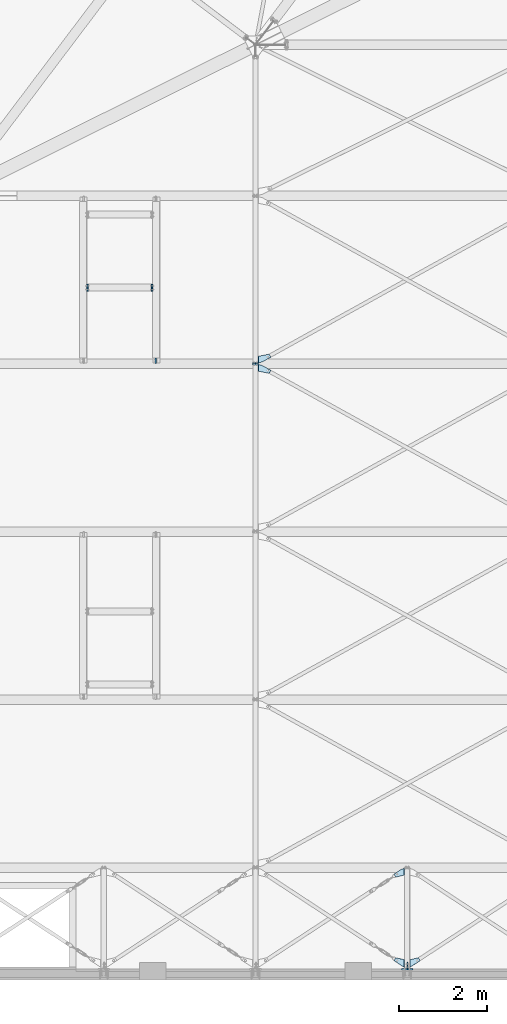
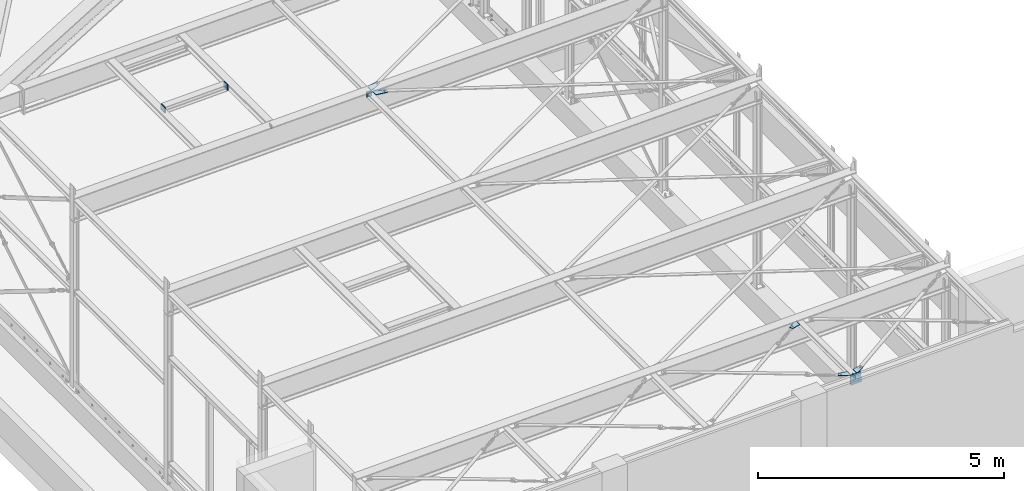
# One storey, part 40 of 476: 14 plates, 60 openings.
"""IFC2X3 building model written with IfcOpenShell, lengths in millimetres."""

from ifc_helpers import new_model, entity, si_unit, converted_unit, point, frame, frame_2d, origin, origin_with_axes, origin_2d_with_axis, place, context, project, spatial, polyline, circle_curve, line_curve, trimmed, segment, composite_curve, circle, outline, extrude, material, layer, layer_set, element, save


model = new_model("IFC2X3")

# Units and contexts
model_context = context("Model", 3, precision=1e-09, world=origin_with_axes())
ifc_project = project(units=[si_unit("LENGTHUNIT", "METRE", prefix="MILLI"), si_unit("AREAUNIT", "SQUARE_METRE"), si_unit("VOLUMEUNIT", "CUBIC_METRE"), converted_unit("PLANEANGLEUNIT", "DEGREE", entity("IfcPlaneAngleMeasure", 0.01745329), si_unit("PLANEANGLEUNIT", "RADIAN"), dimensions=[0, 0, 0, 0, 0, 0, 0])], contexts=[model_context])

# Site, building, storey
site_placement = place(None, origin_with_axes())
site = spatial("IfcSite", under=ifc_project, at=site_placement, Name="mKR Teilneubau & Sanierung BA1 - Ostfildern", CompositionType="ELEMENT")
building_placement = place(site_placement, origin_with_axes())
building = spatial("IfcBuilding", under=site, at=building_placement, Name="Struktur 1", CompositionType="ELEMENT")
storey_placement = place(building_placement, origin_with_axes())
storey = spatial("IfcBuildingStorey", under=building, at=storey_placement, Name="Default Storey", CompositionType="ELEMENT", Elevation=0.0)

# Plate, openings
ifc_material = material(Name="S235JR")
ifc_layer_1 = layer(ifc_material, 15.0)
ifc_layer_set_1 = layer_set([ifc_layer_1], Name="S235JR")
plate_1_placement = place(None, frame((15123.866061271, -9783.67487897, 5423.533418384), z_axis=(0.030019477, 0.0, -0.999549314), x_axis=(0.999549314, 0.0, 0.030019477)))
plate_1 = element("IfcPlate", 1, at=plate_1_placement, inside=storey, material=ifc_layer_set_1, Name="-", ObjectType="-", context=model_context, shape_type="SweptSolid", body=[
    extrude(outline(polyline([(0.0, 0.0), (55.140356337, 0.0), (291.381008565, 130.729269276), (252.646618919, 200.726934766), (1e-09, 150.0), (0.0, 0.0)])), origin_with_axes(), (0.0, 0.0, 1.0), 15.0),
])
opening_1_placement = place(plate_1_placement, frame((0.0, 0.0, -0.01), z_axis=(0.0, 0.0, 1.0), x_axis=(1.0, 0.0, 0.0)))
element("IfcOpeningElement", 2, at=opening_1_placement, cuts=plate_1, ObjectType="Opening", context=model_context, shape_type="SweptSolid", body=[
    extrude(outline(composite_curve([segment(trimmed(line_curve((55.140356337, 0.0), (0.874966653, 0.484183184), 45.191234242), [point((55.140356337, 0.0))], [point((94.681179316, 21.880835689))], True, "CARTESIAN"), True, "CONTINUOUS"), segment(trimmed(circle_curve(frame_2d((9.949122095, 175.0), x_axis=(-1.0, 0.0)), 175.0), [point((94.681179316, 21.880835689))], [point((9.949122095, 0.0))], False, "CARTESIAN"), True, "CONTINUOUS"), segment(trimmed(line_curve((9.949122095, 0.0), (1.0, 0.0), 45.191234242), [point((9.949122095, 0.0))], [point((55.140356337, 0.0))], True, "CARTESIAN"), True, "CONTINUOUS")], self_intersect=False)), origin(), (0.0, 0.0, 1.0), 15.02),
])
opening_2_placement = place(plate_1_placement, frame((1e-09, 151.607257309, 0.0), z_axis=(0.0, -1.0, 0.0), x_axis=(1.0, 0.0, 0.0)))
element("IfcOpeningElement", 3, at=opening_2_placement, cuts=plate_1, ObjectType="Opening", context=model_context, shape_type="SweptSolid", body=[
    extrude(outline(polyline([(0.0, 0.0), (8.0, 0.0), (0.0, 8.0), (0.0, 0.0)])), origin(), (0.0, 0.0, 1.0), 151.628257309),
])
opening_3_placement = place(plate_1_placement, frame((219.51589081, 136.676196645, 15.499690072), z_axis=(-2.2474e-05, 0.0, -1.0), x_axis=(-0.874966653, -0.484183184, 1.9664e-05)))
element("IfcOpeningElement", 4, at=opening_3_placement, cuts=plate_1, ObjectType="Opening", context=model_context, shape_type="SweptSolid", body=[
    extrude(circle(Radius=14.501, at=origin_2d_with_axis()), origin(), (0.0, 0.0, 1.0), 16.000000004),
])

plate_2_placement = place(None, frame((15123.866061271, -9747.67287897, 5423.533418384), z_axis=(-0.030019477, 0.0, 0.999549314), x_axis=(0.999549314, 0.0, 0.030019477)))
plate_2 = element("IfcPlate", 5, at=plate_2_placement, inside=storey, material=ifc_layer_set_1, Name="-", ObjectType="-", context=model_context, shape_type="SweptSolid", body=[
    extrude(outline(polyline([(0.0, 0.0), (55.140356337, 0.0), (291.381008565, 130.729269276), (252.646618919, 200.726934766), (1e-09, 150.0), (0.0, 0.0)])), origin_with_axes(), (0.0, 0.0, -1.0), 15.0),
])
opening_4_placement = place(plate_2_placement, frame((55.140356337, 0.0, 0.01), z_axis=(0.0, 0.0, 1.0), x_axis=(0.874966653, 0.484183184, 0.0)))
element("IfcOpeningElement", 6, at=opening_4_placement, cuts=plate_2, ObjectType="Opening", context=model_context, shape_type="SweptSolid", body=[
    extrude(outline(composite_curve([segment(trimmed(line_curve((0.0, 0.0), (1.0, 0.0), 45.191234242), [point((0.0, 0.0))], [point((45.191234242, 0.0))], True, "CARTESIAN"), True, "CONTINUOUS"), segment(trimmed(circle_curve(frame_2d((45.191234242, 175.0), x_axis=(-1.0, 0.0)), 175.0), [point((45.191234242, 0.0))], [point((-39.540822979, 21.880835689))], False, "CARTESIAN"), True, "CONTINUOUS"), segment(trimmed(line_curve((-39.540822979, 21.880835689), (0.874966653, -0.484183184), 45.191234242), [point((-39.540822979, 21.880835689))], [point((0.0, 0.0))], True, "CARTESIAN"), True, "CONTINUOUS")], self_intersect=False)), origin(), (0.0, 0.0, -1.0), 15.02),
])
opening_5_placement = place(plate_2_placement, frame((0.0, -0.001, 0.0), z_axis=(0.0, 1.0, 0.0), x_axis=(1.0, 0.0, 0.0)))
element("IfcOpeningElement", 7, at=opening_5_placement, cuts=plate_2, ObjectType="Opening", context=model_context, shape_type="SweptSolid", body=[
    extrude(outline(polyline([(0.0, 0.0), (8.0, 0.0), (0.0, 8.0), (0.0, 0.0)])), origin(), (0.0, 0.0, 1.0), 151.628257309),
])
opening_6_placement = place(plate_2_placement, frame((232.203782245, 143.697336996, -15.499404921), z_axis=(2.2474e-05, 0.0, -1.0), x_axis=(-1.0, 0.0, -2.2474e-05)))
element("IfcOpeningElement", 8, at=opening_6_placement, cuts=plate_2, ObjectType="Opening", context=model_context, shape_type="SweptSolid", body=[
    extrude(circle(Radius=14.501, at=frame_2d((12.687891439, -7.021140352), x_axis=(1.0, 0.0))), origin(), (0.0, 0.0, -1.0), 16.000000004),
])

plate_3_placement = place(None, frame((18453.923230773, -23320.388789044, 5523.496218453), z_axis=(-0.030004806, 0.0, 0.999549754), x_axis=(-0.971475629, 0.23533949, -0.029162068)))
plate_3 = element("IfcPlate", 9, at=plate_3_placement, inside=storey, material=ifc_layer_set_1, Name="-", ObjectType="-", context=model_context, shape_type="SweptSolid", body=[
    extrude(outline(polyline([(0.0, 0.0), (200.924912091, 0.0), (227.827566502, 75.338578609), (-41.531266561, 171.523929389), (0.0, 0.0)])), origin_with_axes(), (0.0, 0.0, -1.0), 15.0),
])
opening_7_placement = place(plate_3_placement, frame((0.456082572, -1.883618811, 0.0), z_axis=(-0.235330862, 0.971915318, 0.0), x_axis=(0.971915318, 0.235330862, 0.0)))
element("IfcOpeningElement", 10, at=opening_7_placement, cuts=plate_3, ObjectType="Opening", context=model_context, shape_type="SweptSolid", body=[
    extrude(outline(polyline([(0.0, 0.0), (8.0, 0.0), (0.0, 8.0), (0.0, 0.0)])), origin(), (0.0, 0.0, 1.0), 178.43837142),
])
opening_8_placement = place(plate_3_placement, frame((157.870504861, 57.84744696, -15.499797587), z_axis=(-1.4266e-05, -3.454e-06, 1.0), x_axis=(-0.23533949, 0.971913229, 0.0)))
element("IfcOpeningElement", 11, at=opening_8_placement, cuts=plate_3, ObjectType="Opening", context=model_context, shape_type="SweptSolid", body=[
    extrude(circle(Radius=14.501, at=origin_2d_with_axis()), origin(), (0.0, 0.0, 1.0), 16.000000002),
])

plate_4_placement = place(None, frame((18453.923450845, -21243.67487897, 5523.496225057), z_axis=(-0.029990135, 0.0, 0.999550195), x_axis=(-0.999550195, 0.0, -0.029990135)))
plate_4 = element("IfcPlate", 12, at=plate_4_placement, inside=storey, material=ifc_layer_set_1, Name="-", ObjectType="-", context=model_context, shape_type="SweptSolid", body=[
    extrude(outline(polyline([(0.0, 0.0), (40.371139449, 0.0), (239.157976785, 130.393742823), (195.281580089, 197.285566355), (1e-09, 150.0), (0.0, 0.0)])), origin_with_axes(), (0.0, 0.0, -1.0), 15.0),
])
opening_9_placement = place(plate_4_placement, frame((0.0, -0.001, 0.0), z_axis=(0.0, 1.0, 0.0), x_axis=(1.0, 0.0, 0.0)))
element("IfcOpeningElement", 13, at=opening_9_placement, cuts=plate_4, ObjectType="Opening", context=model_context, shape_type="SweptSolid", body=[
    extrude(outline(polyline([(0.0, 0.0), (8.0, 0.0), (0.0, 8.0), (0.0, 0.0)])), origin(), (0.0, 0.0, 1.0), 151.959123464),
])
opening_10_placement = place(plate_4_placement, frame((40.371139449, 0.0, 0.01), z_axis=(0.0, 0.0, 1.0), x_axis=(0.83616389, 0.548479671, 0.0)))
element("IfcOpeningElement", 14, at=opening_10_placement, cuts=plate_4, ObjectType="Opening", context=model_context, shape_type="SweptSolid", body=[
    extrude(outline(composite_curve([segment(trimmed(line_curve((0.0, 0.0), (1.0, 0.0), 29.87095402), [point((0.0, 0.0))], [point((29.87095402, 0.0))], True, "CARTESIAN"), True, "CONTINUOUS"), segment(trimmed(circle_curve(frame_2d((29.87095402, 100.0), x_axis=(-1.0, 0.0)), 100.0), [point((29.87095402, 0.0))], [point((-24.9770131, 16.383611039))], False, "CARTESIAN"), True, "CONTINUOUS"), segment(trimmed(line_curve((-24.9770131, 16.383611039), (0.83616389, -0.548479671), 29.87095402), [point((-24.9770131, 16.383611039))], [point((0.0, 0.0))], True, "CARTESIAN"), True, "CONTINUOUS")], self_intersect=False)), origin(), (0.0, 0.0, -1.0), 15.02),
])
opening_11_placement = place(plate_4_placement, frame((167.050213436, 145.431465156, -15.5), z_axis=(0.0, 0.0, -1.0), x_axis=(-1.0, 0.0, 0.0)))
element("IfcOpeningElement", 15, at=opening_11_placement, cuts=plate_4, ObjectType="Opening", context=model_context, shape_type="SweptSolid", body=[
    extrude(circle(Radius=14.501, at=frame_2d((0.0, -14.501), x_axis=(1.0, 0.0))), origin(), (0.0, 0.0, -1.0), 16.0),
])

plate_5_placement = place(None, frame((18573.865060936, -23320.388789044, 5527.224888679), z_axis=(0.030004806, 0.0, -0.999549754), x_axis=(0.971475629, 0.23533949, 0.029162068)))
plate_5 = element("IfcPlate", 16, at=plate_5_placement, inside=storey, material=ifc_layer_set_1, Name="-", ObjectType="-", context=model_context, shape_type="SweptSolid", body=[
    extrude(outline(polyline([(0.0, 0.0), (200.924912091, 0.0), (227.827566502, 75.338578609), (-41.531266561, 171.523929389), (0.0, 0.0)])), origin_with_axes(), (0.0, 0.0, 1.0), 15.0),
])
opening_12_placement = place(plate_5_placement, frame((-41.531266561, 171.523929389, 0.0), z_axis=(0.235330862, -0.971915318, 0.0), x_axis=(0.971915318, 0.235330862, 0.0)))
element("IfcOpeningElement", 17, at=opening_12_placement, cuts=plate_5, ObjectType="Opening", context=model_context, shape_type="SweptSolid", body=[
    extrude(outline(polyline([(0.0, 0.0), (8.0, 0.0), (0.0, 8.0), (0.0, 0.0)])), origin(), (0.0, 0.0, 1.0), 178.43837142),
])
opening_13_placement = place(plate_5_placement, frame((161.283162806, 43.753733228, 15.499797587), z_axis=(1.4266e-05, 3.454e-06, 1.0), x_axis=(1.0, 0.0, -1.4266e-05)))
element("IfcOpeningElement", 18, at=opening_13_placement, cuts=plate_5, ObjectType="Opening", context=model_context, shape_type="SweptSolid", body=[
    extrude(circle(Radius=14.501, at=frame_2d((-3.412657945, 14.093713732), x_axis=(1.0, 0.0))), origin(), (0.0, 0.0, -1.0), 16.000000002),
])

plate_6_placement = place(None, frame((18533.098058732, -23454.67387897, 5468.818363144), z_axis=(-0.999548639, 0.0, -0.030041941), x_axis=(0.0, -1.0, 0.0)))
plate_6 = element("IfcPlate", 19, at=plate_6_placement, inside=storey, material=ifc_layer_set_1, Name="-", ObjectType="-", context=model_context, shape_type="SweptSolid", body=[
    extrude(outline(polyline([(-75.0, -37.5), (75.0, -37.5), (75.0, 37.5), (-75.0, 37.5), (-75.0, -37.5)])), origin_with_axes(), (0.0, 0.0, 1.0), 15.0),
])
opening_14_placement = place(plate_6_placement, frame((1.0353e-05, 2.166e-06, -0.5), z_axis=(0.0, 0.0, 1.0), x_axis=(1.0, 0.0, 0.0)))
element("IfcOpeningElement", 20, at=opening_14_placement, cuts=plate_6, ObjectType="Opening", context=model_context, shape_type="SweptSolid", body=[
    extrude(circle(Radius=9.001, at=frame_2d((35.0, 0.0), x_axis=(1.0, 0.0))), origin(), (0.0, 0.0, 1.0), 16.0),
])
opening_15_placement = place(plate_6_placement, frame((1.0353e-05, 2.166e-06, -0.5), z_axis=(0.0, 0.0, 1.0), x_axis=(1.0, 0.0, 0.0)))
element("IfcOpeningElement", 21, at=opening_15_placement, cuts=plate_6, ObjectType="Opening", context=model_context, shape_type="SweptSolid", body=[
    extrude(circle(Radius=9.001, at=frame_2d((-35.0, 0.0), x_axis=(1.0, 0.0))), origin(), (0.0, 0.0, 1.0), 16.0),
])

plate_7_placement = place(None, frame((12699.238358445, -8035.673034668, 5334.436682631), z_axis=(0.999549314, 0.0, 0.030019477), x_axis=(0.030019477, 0.0, -0.999549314)))
plate_7 = element("IfcPlate", 22, at=plate_7_placement, inside=storey, material=ifc_layer_set_1, Name="Endplate#1", ObjectType="Endplate#1", context=model_context, shape_type="SweptSolid", body=[
    extrude(outline(polyline([(-70.0, -80.0), (70.0, -80.0), (70.0, 80.0), (-70.0, 80.0), (-70.0, -80.0)])), origin_with_axes(), (0.0, 0.0, 1.0), 15.0),
])
opening_16_placement = place(plate_7_placement, frame((52.0, -18.0, 15.5), z_axis=(0.0, 0.0, -1.0), x_axis=(1.0, 0.0, 0.0)))
element("IfcOpeningElement", 23, at=opening_16_placement, cuts=plate_7, ObjectType="Opening", context=model_context, shape_type="SweptSolid", body=[
    extrude(circle(Radius=6.001, at=origin_2d_with_axis()), origin(), (0.0, 0.0, 1.0), 16.0),
])
opening_17_placement = place(plate_7_placement, frame((-52.0, -18.0, 15.5), z_axis=(0.0, 0.0, -1.0), x_axis=(1.0, 0.0, 0.0)))
element("IfcOpeningElement", 24, at=opening_17_placement, cuts=plate_7, ObjectType="Opening", context=model_context, shape_type="SweptSolid", body=[
    extrude(circle(Radius=6.001, at=origin_2d_with_axis()), origin(), (0.0, 0.0, 1.0), 16.0),
])
opening_18_placement = place(plate_7_placement, frame((-52.0, 18.0, 15.5), z_axis=(0.0, 0.0, -1.0), x_axis=(1.0, 0.0, 0.0)))
element("IfcOpeningElement", 25, at=opening_18_placement, cuts=plate_7, ObjectType="Opening", context=model_context, shape_type="SweptSolid", body=[
    extrude(circle(Radius=6.001, at=origin_2d_with_axis()), origin(), (0.0, 0.0, 1.0), 16.0),
])
opening_19_placement = place(plate_7_placement, frame((52.0, 18.0, 15.5), z_axis=(0.0, 0.0, -1.0), x_axis=(1.0, 0.0, 0.0)))
element("IfcOpeningElement", 26, at=opening_19_placement, cuts=plate_7, ObjectType="Opening", context=model_context, shape_type="SweptSolid", body=[
    extrude(circle(Radius=6.001, at=origin_2d_with_axis()), origin(), (0.0, 0.0, 1.0), 16.0),
])
opening_20_placement = place(plate_7_placement, frame((35.0, 43.0, 15.5), z_axis=(0.0, 0.0, -1.0), x_axis=(-1.0, 0.0, 0.0)))
element("IfcOpeningElement", 27, at=opening_20_placement, cuts=plate_7, ObjectType="Opening", context=model_context, shape_type="SweptSolid", body=[
    extrude(circle(Radius=7.001, at=frame_2d((70.0, 0.0), x_axis=(1.0, 0.0))), origin(), (0.0, 0.0, 1.0), 16.0),
])
opening_21_placement = place(plate_7_placement, frame((35.0, 43.0, 15.5), z_axis=(0.0, 0.0, -1.0), x_axis=(-1.0, 0.0, 0.0)))
element("IfcOpeningElement", 28, at=opening_21_placement, cuts=plate_7, ObjectType="Opening", context=model_context, shape_type="SweptSolid", body=[
    extrude(circle(Radius=7.001, at=origin_2d_with_axis()), origin(), (0.0, 0.0, 1.0), 16.0),
])
opening_22_placement = place(plate_7_placement, frame((35.0, -43.0, 15.5), z_axis=(0.0, 0.0, -1.0), x_axis=(0.0, -1.0, 0.0)))
element("IfcOpeningElement", 29, at=opening_22_placement, cuts=plate_7, ObjectType="Opening", context=model_context, shape_type="SweptSolid", body=[
    extrude(circle(Radius=7.001, at=frame_2d((0.0, 70.0), x_axis=(1.0, 0.0))), origin(), (0.0, 0.0, 1.0), 16.0),
])
opening_23_placement = place(plate_7_placement, frame((35.0, -43.0, 15.5), z_axis=(0.0, 0.0, -1.0), x_axis=(0.0, -1.0, 0.0)))
element("IfcOpeningElement", 30, at=opening_23_placement, cuts=plate_7, ObjectType="Opening", context=model_context, shape_type="SweptSolid", body=[
    extrude(circle(Radius=7.001, at=origin_2d_with_axis()), origin(), (0.0, 0.0, 1.0), 16.0),
])

plate_8_placement = place(None, frame((12729.224837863, -8035.673034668, 5335.33726695), z_axis=(-0.999549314, 0.0, -0.030019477), x_axis=(0.0, -1.0, 0.0)))
plate_8 = element("IfcPlate", 31, at=plate_8_placement, inside=storey, material=ifc_layer_set_1, Name="T-plate", ObjectType="T-plate", context=model_context, shape_type="SweptSolid", body=[
    extrude(outline(polyline([(-80.0, -70.0), (80.0, -70.0), (80.0, 70.0), (-80.0, 70.0), (-80.0, -70.0)])), origin_with_axes(), (0.0, 0.0, 1.0), 15.0),
])
opening_24_placement = place(plate_8_placement, frame((-43.0, -35.0, -0.5), z_axis=(0.0, 0.0, 1.0), x_axis=(0.0, 1.0, 0.0)))
element("IfcOpeningElement", 32, at=opening_24_placement, cuts=plate_8, ObjectType="Opening", context=model_context, shape_type="SweptSolid", body=[
    extrude(circle(Radius=7.001, at=frame_2d((70.0, 0.0), x_axis=(1.0, 0.0))), origin(), (0.0, 0.0, 1.0), 16.0),
])
opening_25_placement = place(plate_8_placement, frame((-43.0, -35.0, -0.5), z_axis=(0.0, 0.0, 1.0), x_axis=(0.0, 1.0, 0.0)))
element("IfcOpeningElement", 33, at=opening_25_placement, cuts=plate_8, ObjectType="Opening", context=model_context, shape_type="SweptSolid", body=[
    extrude(circle(Radius=7.001, at=origin_2d_with_axis()), origin(), (0.0, 0.0, 1.0), 16.0),
])
opening_26_placement = place(plate_8_placement, frame((43.0, -35.0, -0.5), z_axis=(0.0, 0.0, 1.0), x_axis=(1.0, 0.0, 0.0)))
element("IfcOpeningElement", 34, at=opening_26_placement, cuts=plate_8, ObjectType="Opening", context=model_context, shape_type="SweptSolid", body=[
    extrude(circle(Radius=7.001, at=frame_2d((0.0, 70.0), x_axis=(1.0, 0.0))), origin(), (0.0, 0.0, 1.0), 16.0),
])
opening_27_placement = place(plate_8_placement, frame((43.0, -35.0, -0.5), z_axis=(0.0, 0.0, 1.0), x_axis=(1.0, 0.0, 0.0)))
element("IfcOpeningElement", 35, at=opening_27_placement, cuts=plate_8, ObjectType="Opening", context=model_context, shape_type="SweptSolid", body=[
    extrude(circle(Radius=7.001, at=origin_2d_with_axis()), origin(), (0.0, 0.0, 1.0), 16.0),
])

plate_9_placement = place(None, frame((11259.887346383, -8035.673034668, 5291.208635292), z_axis=(-0.999549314, 0.0, -0.030019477), x_axis=(0.030019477, 0.0, -0.999549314)))
plate_9 = element("IfcPlate", 36, at=plate_9_placement, inside=storey, material=ifc_layer_set_1, Name="Endplate#1", ObjectType="Endplate#1", context=model_context, shape_type="SweptSolid", body=[
    extrude(outline(polyline([(-70.0, -80.0), (70.0, -80.0), (70.0, 80.0), (-70.0, 80.0), (-70.0, -80.0)])), origin_with_axes(), (0.0, 0.0, 1.0), 15.0),
])
opening_28_placement = place(plate_9_placement, frame((52.0, 18.0, 15.5), z_axis=(0.0, 0.0, -1.0), x_axis=(-1.0, 0.0, 0.0)))
element("IfcOpeningElement", 37, at=opening_28_placement, cuts=plate_9, ObjectType="Opening", context=model_context, shape_type="SweptSolid", body=[
    extrude(circle(Radius=6.001, at=origin_2d_with_axis()), origin(), (0.0, 0.0, 1.0), 16.0),
])
opening_29_placement = place(plate_9_placement, frame((-52.0, 18.0, 15.5), z_axis=(0.0, 0.0, -1.0), x_axis=(-1.0, 0.0, 0.0)))
element("IfcOpeningElement", 38, at=opening_29_placement, cuts=plate_9, ObjectType="Opening", context=model_context, shape_type="SweptSolid", body=[
    extrude(circle(Radius=6.001, at=origin_2d_with_axis()), origin(), (0.0, 0.0, 1.0), 16.0),
])
opening_30_placement = place(plate_9_placement, frame((-52.0, -18.0, 15.5), z_axis=(0.0, 0.0, -1.0), x_axis=(-1.0, 0.0, 0.0)))
element("IfcOpeningElement", 39, at=opening_30_placement, cuts=plate_9, ObjectType="Opening", context=model_context, shape_type="SweptSolid", body=[
    extrude(circle(Radius=6.001, at=origin_2d_with_axis()), origin(), (0.0, 0.0, 1.0), 16.0),
])
opening_31_placement = place(plate_9_placement, frame((52.0, -18.0, 15.5), z_axis=(0.0, 0.0, -1.0), x_axis=(-1.0, 0.0, 0.0)))
element("IfcOpeningElement", 40, at=opening_31_placement, cuts=plate_9, ObjectType="Opening", context=model_context, shape_type="SweptSolid", body=[
    extrude(circle(Radius=6.001, at=origin_2d_with_axis()), origin(), (0.0, 0.0, 1.0), 16.0),
])
opening_32_placement = place(plate_9_placement, frame((35.0, 43.0, 15.5), z_axis=(0.0, 0.0, -1.0), x_axis=(-1.0, 0.0, 0.0)))
element("IfcOpeningElement", 41, at=opening_32_placement, cuts=plate_9, ObjectType="Opening", context=model_context, shape_type="SweptSolid", body=[
    extrude(circle(Radius=7.001, at=frame_2d((70.0, 0.0), x_axis=(1.0, 0.0))), origin(), (0.0, 0.0, 1.0), 16.0),
])
opening_33_placement = place(plate_9_placement, frame((35.0, 43.0, 15.5), z_axis=(0.0, 0.0, -1.0), x_axis=(-1.0, 0.0, 0.0)))
element("IfcOpeningElement", 42, at=opening_33_placement, cuts=plate_9, ObjectType="Opening", context=model_context, shape_type="SweptSolid", body=[
    extrude(circle(Radius=7.001, at=origin_2d_with_axis()), origin(), (0.0, 0.0, 1.0), 16.0),
])
opening_34_placement = place(plate_9_placement, frame((35.0, -43.0, 15.5), z_axis=(0.0, 0.0, -1.0), x_axis=(0.0, -1.0, 0.0)))
element("IfcOpeningElement", 43, at=opening_34_placement, cuts=plate_9, ObjectType="Opening", context=model_context, shape_type="SweptSolid", body=[
    extrude(circle(Radius=7.001, at=frame_2d((0.0, 70.0), x_axis=(1.0, 0.0))), origin(), (0.0, 0.0, 1.0), 16.0),
])
opening_35_placement = place(plate_9_placement, frame((35.0, -43.0, 15.5), z_axis=(0.0, 0.0, -1.0), x_axis=(0.0, -1.0, 0.0)))
element("IfcOpeningElement", 44, at=opening_35_placement, cuts=plate_9, ObjectType="Opening", context=model_context, shape_type="SweptSolid", body=[
    extrude(circle(Radius=7.001, at=origin_2d_with_axis()), origin(), (0.0, 0.0, 1.0), 16.0),
])

plate_10_placement = place(None, frame((11229.900866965, -8035.673034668, 5290.308050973), z_axis=(0.999549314, 0.0, 0.030019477), x_axis=(0.0, 1.0, 0.0)))
plate_10 = element("IfcPlate", 45, at=plate_10_placement, inside=storey, material=ifc_layer_set_1, Name="T-plate", ObjectType="T-plate", context=model_context, shape_type="SweptSolid", body=[
    extrude(outline(polyline([(-80.0, -70.0), (80.0, -70.0), (80.0, 70.0), (-80.0, 70.0), (-80.0, -70.0)])), origin_with_axes(), (0.0, 0.0, 1.0), 15.0),
])
opening_36_placement = place(plate_10_placement, frame((43.0, -35.0, -0.5), z_axis=(0.0, 0.0, 1.0), x_axis=(1.0, 0.0, 0.0)))
element("IfcOpeningElement", 46, at=opening_36_placement, cuts=plate_10, ObjectType="Opening", context=model_context, shape_type="SweptSolid", body=[
    extrude(circle(Radius=7.001, at=frame_2d((0.0, 70.0), x_axis=(1.0, 0.0))), origin(), (0.0, 0.0, 1.0), 16.0),
])
opening_37_placement = place(plate_10_placement, frame((43.0, -35.0, -0.5), z_axis=(0.0, 0.0, 1.0), x_axis=(1.0, 0.0, 0.0)))
element("IfcOpeningElement", 47, at=opening_37_placement, cuts=plate_10, ObjectType="Opening", context=model_context, shape_type="SweptSolid", body=[
    extrude(circle(Radius=7.001, at=origin_2d_with_axis()), origin(), (0.0, 0.0, 1.0), 16.0),
])
opening_38_placement = place(plate_10_placement, frame((-43.0, -35.0, -0.5), z_axis=(0.0, 0.0, 1.0), x_axis=(0.0, 1.0, 0.0)))
element("IfcOpeningElement", 48, at=opening_38_placement, cuts=plate_10, ObjectType="Opening", context=model_context, shape_type="SweptSolid", body=[
    extrude(circle(Radius=7.001, at=frame_2d((70.0, 0.0), x_axis=(1.0, 0.0))), origin(), (0.0, 0.0, 1.0), 16.0),
])
opening_39_placement = place(plate_10_placement, frame((-43.0, -35.0, -0.5), z_axis=(0.0, 0.0, 1.0), x_axis=(0.0, 1.0, 0.0)))
element("IfcOpeningElement", 49, at=opening_39_placement, cuts=plate_10, ObjectType="Opening", context=model_context, shape_type="SweptSolid", body=[
    extrude(circle(Radius=7.001, at=origin_2d_with_axis()), origin(), (0.0, 0.0, 1.0), 16.0),
])

plate_11_placement = place(None, frame((12804.92814849, -9759.67387897, 5379.66874502), z_axis=(-0.999549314, 0.0, -0.030019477), x_axis=(0.0, 1.0, 0.0)))
plate_11 = element("IfcPlate", 50, at=plate_11_placement, inside=storey, material=ifc_layer_set_1, Name="LugPlate#1", ObjectType="LugPlate#1", context=model_context, shape_type="SweptSolid", body=[
    extrude(outline(polyline([(0.0, 0.0), (115.0, 0.0), (115.0, 90.0), (0.0, 90.0), (0.0, 0.0)])), origin_with_axes(), (0.0, 0.0, 1.0), 15.0),
])
opening_40_placement = place(plate_11_placement, frame((0.0, 0.0, 15.1), z_axis=(0.0, 0.0, -1.0), x_axis=(1.0, 0.0, 0.0)))
element("IfcOpeningElement", 51, at=opening_40_placement, cuts=plate_11, ObjectType="Opening", context=model_context, shape_type="SweptSolid", body=[
    extrude(outline(polyline([(24.002414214, 15.000932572), (-0.001, 15.000932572), (-0.001, -9.002481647), (24.002414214, 15.000932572)])), origin(), (0.0, 0.0, 1.0), 15.2),
])
opening_41_placement = place(plate_11_placement, frame((82.999, 65.0, 15.5), z_axis=(0.0, 0.0, 1.0), x_axis=(1.0, 0.0, 0.0)))
element("IfcOpeningElement", 52, at=opening_41_placement, cuts=plate_11, ObjectType="Opening", context=model_context, shape_type="SweptSolid", body=[
    extrude(circle(Radius=7.001, at=frame_2d((7.001, 0.0), x_axis=(1.0, 0.0))), origin(), (0.0, 0.0, -1.0), 16.0),
])
opening_42_placement = place(plate_11_placement, frame((32.999, 65.0, 15.5), z_axis=(0.0, 0.0, 1.0), x_axis=(1.0, 0.0, 0.0)))
element("IfcOpeningElement", 53, at=opening_42_placement, cuts=plate_11, ObjectType="Opening", context=model_context, shape_type="SweptSolid", body=[
    extrude(circle(Radius=7.001, at=frame_2d((7.001, 0.0), x_axis=(1.0, 0.0))), origin(), (0.0, 0.0, -1.0), 16.0),
])
opening_43_placement = place(plate_11_placement, frame((82.999, 25.0, 15.5), z_axis=(0.0, 0.0, 1.0), x_axis=(1.0, 0.0, 0.0)))
element("IfcOpeningElement", 54, at=opening_43_placement, cuts=plate_11, ObjectType="Opening", context=model_context, shape_type="SweptSolid", body=[
    extrude(circle(Radius=7.001, at=frame_2d((7.001, 0.0), x_axis=(1.0, 0.0))), origin(), (0.0, 0.0, -1.0), 16.0),
])
opening_44_placement = place(plate_11_placement, frame((32.999, 25.0, 15.5), z_axis=(0.0, 0.0, 1.0), x_axis=(1.0, 0.0, 0.0)))
element("IfcOpeningElement", 55, at=opening_44_placement, cuts=plate_11, ObjectType="Opening", context=model_context, shape_type="SweptSolid", body=[
    extrude(circle(Radius=7.001, at=frame_2d((7.001, 0.0), x_axis=(1.0, 0.0))), origin(), (0.0, 0.0, -1.0), 16.0),
])

ifc_layer_2 = layer(ifc_material, 20.0)
ifc_layer_set_2 = layer_set([ifc_layer_2], Name="S235JR")
plate_12_placement = place(None, frame((18388.201791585, -23549.67387897, 5581.502459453), z_axis=(0.0, 1.0, 0.0), x_axis=(0.999548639, 0.0, 0.030041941)))
plate_12 = element("IfcPlate", 56, at=plate_12_placement, inside=storey, material=ifc_layer_set_2, Name="-", ObjectType="-", context=model_context, shape_type="SweptSolid", body=[
    extrude(outline(polyline([(0.0, 0.0), (250.0, 0.0), (250.0, 250.0), (0.0, 250.0), (0.0, 0.0)])), origin_with_axes(), (0.0, 0.0, 1.0), 20.0),
])
opening_45_placement = place(plate_12_placement, frame((72.0, 152.0, 20.5), z_axis=(0.0, 0.0, -1.0), x_axis=(1.0, 0.0, 0.0)))
element("IfcOpeningElement", 57, at=opening_45_placement, cuts=plate_12, ObjectType="Opening", context=model_context, shape_type="SweptSolid", body=[
    extrude(circle(Radius=8.501, at=origin_2d_with_axis()), origin(), (0.0, 0.0, 1.0), 21.0),
])
opening_46_placement = place(plate_12_placement, frame((178.0, 152.0, 20.5), z_axis=(0.0, 0.0, -1.0), x_axis=(1.0, 0.0, 0.0)))
element("IfcOpeningElement", 58, at=opening_46_placement, cuts=plate_12, ObjectType="Opening", context=model_context, shape_type="SweptSolid", body=[
    extrude(circle(Radius=8.501, at=origin_2d_with_axis()), origin(), (0.0, 0.0, 1.0), 21.0),
])
opening_47_placement = place(plate_12_placement, frame((178.0, 72.0, 20.5), z_axis=(0.0, 0.0, -1.0), x_axis=(1.0, 0.0, 0.0)))
element("IfcOpeningElement", 59, at=opening_47_placement, cuts=plate_12, ObjectType="Opening", context=model_context, shape_type="SweptSolid", body=[
    extrude(circle(Radius=8.501, at=origin_2d_with_axis()), origin(), (0.0, 0.0, 1.0), 21.0),
])
opening_48_placement = place(plate_12_placement, frame((72.0, 72.0, 20.5), z_axis=(0.0, 0.0, -1.0), x_axis=(1.0, 0.0, 0.0)))
element("IfcOpeningElement", 60, at=opening_48_placement, cuts=plate_12, ObjectType="Opening", context=model_context, shape_type="SweptSolid", body=[
    extrude(circle(Radius=8.501, at=origin_2d_with_axis()), origin(), (0.0, 0.0, 1.0), 21.0),
])

ifc_layer_3 = layer(ifc_material, 12.0)
ifc_layer_set_3 = layer_set([ifc_layer_3], Name="S235JR")
plate_13_placement = place(None, frame((15123.720531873, -9771.67387897, 5428.37543939), z_axis=(0.0, -1.0, 0.0), x_axis=(-0.999549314, 0.0, -0.030019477)))
plate_13 = element("IfcPlate", 61, at=plate_13_placement, inside=storey, material=ifc_layer_set_3, Name="Endplate", ObjectType="Endplate", context=model_context, shape_type="SweptSolid", body=[
    extrude(outline(polyline([(0.0, 0.0), (120.0, 0.0), (120.0, 124.0), (0.0, 124.0), (0.0, 0.0)])), origin_with_axes(), (0.0, 0.0, 1.0), 12.0),
])
opening_49_placement = place(plate_13_placement, frame((89.999999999, 62.000112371, -0.5), z_axis=(0.0, 0.0, 1.0), x_axis=(0.0, -1.0, 0.0)))
element("IfcOpeningElement", 62, at=opening_49_placement, cuts=plate_13, ObjectType="Opening", context=model_context, shape_type="SweptSolid", body=[
    extrude(circle(Radius=7.001, at=origin_2d_with_axis()), origin(), (0.0, 0.0, 1.0), 13.0),
])
opening_50_placement = place(plate_13_placement, frame((30.000000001, 61.999887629, -0.5), z_axis=(0.0, 0.0, 1.0), x_axis=(0.0, -1.0, 0.0)))
element("IfcOpeningElement", 63, at=opening_50_placement, cuts=plate_13, ObjectType="Opening", context=model_context, shape_type="SweptSolid", body=[
    extrude(circle(Radius=7.001, at=origin_2d_with_axis()), origin(), (0.0, 0.0, 1.0), 13.0),
])
opening_51_placement = place(plate_13_placement, frame((74.5, 99.0, -0.5), z_axis=(0.0, 0.0, 1.0), x_axis=(0.0, -1.0, 0.0)))
element("IfcOpeningElement", 64, at=opening_51_placement, cuts=plate_13, ObjectType="Opening", context=model_context, shape_type="SweptSolid", body=[
    extrude(circle(Radius=6.001, at=origin_2d_with_axis()), origin(), (0.0, 0.0, 1.0), 13.0),
])
opening_52_placement = place(plate_13_placement, frame((74.5, 25.0, -0.5), z_axis=(0.0, 0.0, 1.0), x_axis=(0.0, -1.0, 0.0)))
element("IfcOpeningElement", 65, at=opening_52_placement, cuts=plate_13, ObjectType="Opening", context=model_context, shape_type="SweptSolid", body=[
    extrude(circle(Radius=6.001, at=origin_2d_with_axis()), origin(), (0.0, 0.0, 1.0), 13.0),
])
opening_53_placement = place(plate_13_placement, frame((45.5, 25.0, -0.5), z_axis=(0.0, 0.0, 1.0), x_axis=(0.0, -1.0, 0.0)))
element("IfcOpeningElement", 66, at=opening_53_placement, cuts=plate_13, ObjectType="Opening", context=model_context, shape_type="SweptSolid", body=[
    extrude(circle(Radius=6.001, at=origin_2d_with_axis()), origin(), (0.0, 0.0, 1.0), 13.0),
])
opening_54_placement = place(plate_13_placement, frame((45.5, 99.0, -0.5), z_axis=(0.0, 0.0, 1.0), x_axis=(0.0, -1.0, 0.0)))
element("IfcOpeningElement", 67, at=opening_54_placement, cuts=plate_13, ObjectType="Opening", context=model_context, shape_type="SweptSolid", body=[
    extrude(circle(Radius=6.001, at=origin_2d_with_axis()), origin(), (0.0, 0.0, 1.0), 13.0),
])

plate_14_placement = place(None, frame((15003.774614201, -9759.67387897, 5424.773102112), z_axis=(0.0, 1.0, 0.0), x_axis=(0.999549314, 0.0, 0.030019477)))
plate_14 = element("IfcPlate", 68, at=plate_14_placement, inside=storey, material=ifc_layer_set_3, Name="Endplate", ObjectType="Endplate", context=model_context, shape_type="SweptSolid", body=[
    extrude(outline(polyline([(0.0, 0.0), (120.0, 0.0), (120.0, 124.0), (0.0, 124.0), (0.0, 0.0)])), origin_with_axes(), (0.0, 0.0, 1.0), 12.0),
])
opening_55_placement = place(plate_14_placement, frame((30.000000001, 62.000112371, 12.5), z_axis=(0.0, 0.0, -1.0), x_axis=(0.0, -1.0, 0.0)))
element("IfcOpeningElement", 69, at=opening_55_placement, cuts=plate_14, ObjectType="Opening", context=model_context, shape_type="SweptSolid", body=[
    extrude(circle(Radius=7.001, at=origin_2d_with_axis()), origin(), (0.0, 0.0, 1.0), 13.0),
])
opening_56_placement = place(plate_14_placement, frame((89.999999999, 61.999887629, 12.5), z_axis=(0.0, 0.0, -1.0), x_axis=(0.0, -1.0, 0.0)))
element("IfcOpeningElement", 70, at=opening_56_placement, cuts=plate_14, ObjectType="Opening", context=model_context, shape_type="SweptSolid", body=[
    extrude(circle(Radius=7.001, at=origin_2d_with_axis()), origin(), (0.0, 0.0, 1.0), 13.0),
])
opening_57_placement = place(plate_14_placement, frame((45.5, 99.0, -0.5), z_axis=(0.0, 0.0, 1.0), x_axis=(0.0, 1.0, 0.0)))
element("IfcOpeningElement", 71, at=opening_57_placement, cuts=plate_14, ObjectType="Opening", context=model_context, shape_type="SweptSolid", body=[
    extrude(circle(Radius=6.001, at=origin_2d_with_axis()), origin(), (0.0, 0.0, 1.0), 13.0),
])
opening_58_placement = place(plate_14_placement, frame((45.5, 25.0, -0.5), z_axis=(0.0, 0.0, 1.0), x_axis=(0.0, 1.0, 0.0)))
element("IfcOpeningElement", 72, at=opening_58_placement, cuts=plate_14, ObjectType="Opening", context=model_context, shape_type="SweptSolid", body=[
    extrude(circle(Radius=6.001, at=origin_2d_with_axis()), origin(), (0.0, 0.0, 1.0), 13.0),
])
opening_59_placement = place(plate_14_placement, frame((74.5, 25.0, -0.5), z_axis=(0.0, 0.0, 1.0), x_axis=(0.0, 1.0, 0.0)))
element("IfcOpeningElement", 73, at=opening_59_placement, cuts=plate_14, ObjectType="Opening", context=model_context, shape_type="SweptSolid", body=[
    extrude(circle(Radius=6.001, at=origin_2d_with_axis()), origin(), (0.0, 0.0, 1.0), 13.0),
])
opening_60_placement = place(plate_14_placement, frame((74.5, 99.0, -0.5), z_axis=(0.0, 0.0, 1.0), x_axis=(0.0, 1.0, 0.0)))
element("IfcOpeningElement", 74, at=opening_60_placement, cuts=plate_14, ObjectType="Opening", context=model_context, shape_type="SweptSolid", body=[
    extrude(circle(Radius=6.001, at=origin_2d_with_axis()), origin(), (0.0, 0.0, 1.0), 13.0),
])

save(model, "model.ifc")
